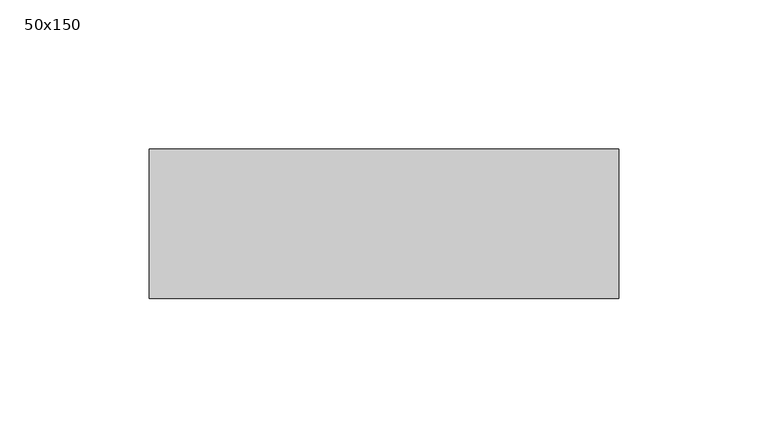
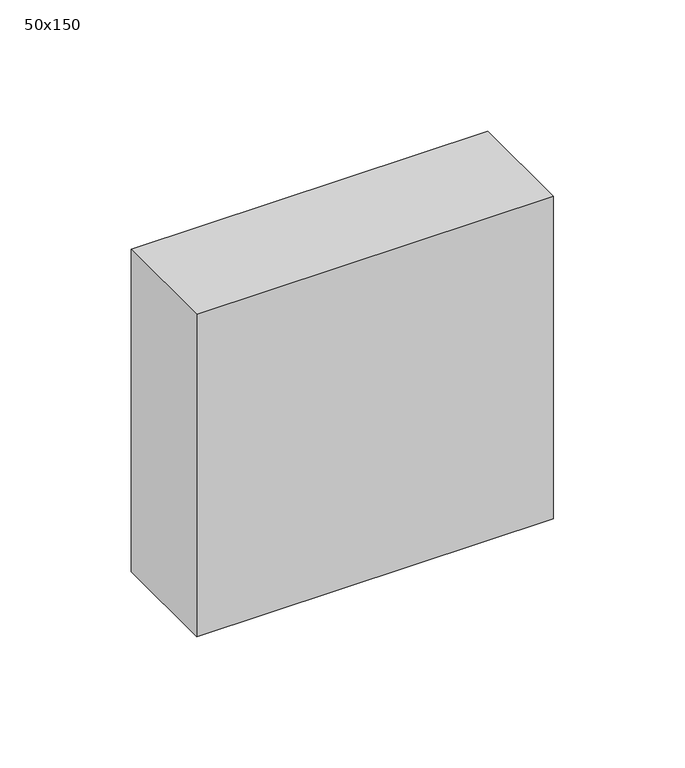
"""IFC4 building model written with IfcOpenShell, lengths in millimetres: beam geometry, Graded Timber : 50x150."""

from ifc_helpers import new_model, si_unit, frame, origin, place, context, project, spatial, polyline, outline, extrude, source, transform, mapped, element, save


def beam_50x150_b006d7be(model_context):
    return source(origin(), model_context, "Body", "SweptSolid", [
        extrude(outline(polyline([(78.5, 25.0), (78.5, -25.0), (-78.5, -25.0), (-78.5, 25.0), (78.5, 25.0)])), frame((0.0, 0.0, -75.0), z_axis=(0.0, 0.0, 1.0), x_axis=(1.0, 0.0, 0.0)), (0.0, 0.0, 1.0), 150.0),
    ])


if __name__ == "__main__":
    model = new_model("IFC4")
    model_context = context("Model", 3, world=origin())
    ifc_project = project(units=[si_unit("LENGTHUNIT", "METRE", prefix="MILLI")], contexts=[model_context])
    site = spatial("IfcSite", under=ifc_project)
    building = spatial("IfcBuilding", under=site)
    placement = place(None, origin())
    beam_50x150_shape = beam_50x150_b006d7be(model_context)
    element("IfcBeam", 1, ObjectType="Graded Timber : 50x150", at=placement, inside=building, context=model_context, shape_type="MappedRepresentation", body=[
        mapped(beam_50x150_shape, transform((0.0, 0.0, 0.0), x_axis=(1.0, 0.0, 0.0), y_axis=(0.0, 1.0, 0.0), z_axis=(0.0, 0.0, 1.0))),
    ])
    save(model, "model.ifc")
